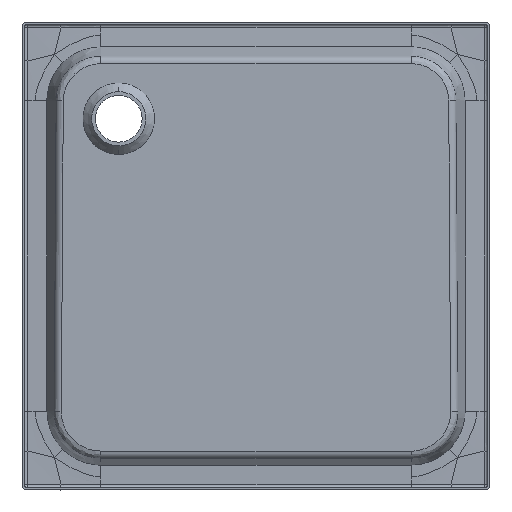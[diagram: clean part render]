
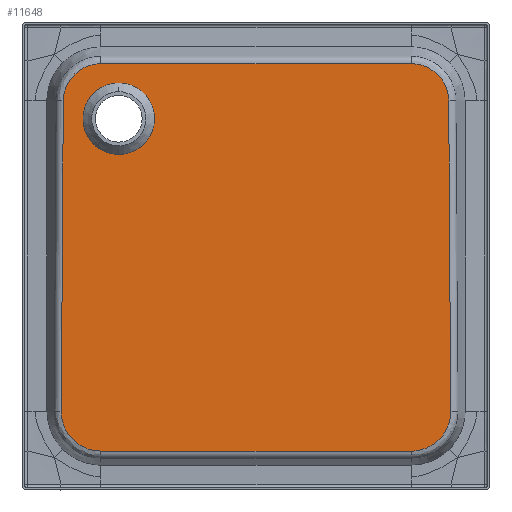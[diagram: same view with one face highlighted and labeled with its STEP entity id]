
A CAD part, front view. The second image highlights one B-rep face of the part: STEP entity #11648.
In plain terms, the highlighted planar face has unit normal (0, -1, -0.018).
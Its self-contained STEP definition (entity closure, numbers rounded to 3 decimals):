
#4017=CARTESIAN_POINT('',(151.5,-17.198,-825.156));
#4018=CARTESIAN_POINT('',(148.298,-17.198,
-825.156));
#4019=CARTESIAN_POINT('',(141.475,-17.204,
-824.761));
#4020=CARTESIAN_POINT('',(129.786,-17.246,
-822.352));
#4021=CARTESIAN_POINT('',(117.2,-17.332,
-817.466));
#4022=CARTESIAN_POINT('',(104.274,-17.473,
-809.402));
#4023=CARTESIAN_POINT('',(92.421,-17.674,
-797.845));
#4024=CARTESIAN_POINT('',(83.827,-17.904,
-784.698));
#4025=CARTESIAN_POINT('',(78.556,-18.132,
-771.634));
#4026=CARTESIAN_POINT('',(75.958,-18.346,
-759.339));
#4027=CARTESIAN_POINT('',(75.563,-18.472,
-752.145));
#4028=CARTESIAN_POINT('',(75.584,-18.531,
-748.755));
#4033=DIRECTION('',(0.006,-0.017,1.));
#4034=VECTOR('',#4033,597.103);
#4035=CARTESIAN_POINT('',(75.584,-18.531,
-748.755));
#4036=LINE('',#4035,#4034);
#4040=CARTESIAN_POINT('',(79.377,-28.952,
-151.755));
#4041=CARTESIAN_POINT('',(79.397,-29.006,
-148.662));
#4042=CARTESIAN_POINT('',(79.825,-29.12,
-142.094));
#4043=CARTESIAN_POINT('',(82.251,-29.316,
-130.863));
#4044=CARTESIAN_POINT('',(87.031,-29.524,
-118.954));
#4045=CARTESIAN_POINT('',(94.666,-29.733,
-106.991));
#4046=CARTESIAN_POINT('',(105.262,-29.922,
-96.184));
#4047=CARTESIAN_POINT('',(117.374,-30.062,
-88.168));
#4048=CARTESIAN_POINT('',(129.644,-30.15,
-83.092));
#4049=CARTESIAN_POINT('',(141.361,-30.195,
-80.514));
#4050=CARTESIAN_POINT('',(148.243,-30.203,
-80.087));
#4051=CARTESIAN_POINT('',(151.5,-30.203,-80.087));
#4056=DIRECTION('',(1.,0.,0.));
#4057=VECTOR('',#4056,597.);
#4058=CARTESIAN_POINT('',(151.5,-30.203,-80.087));
#4059=LINE('',#4058,#4057);
#4063=CARTESIAN_POINT('',(748.5,-30.203,-80.087));
#4064=CARTESIAN_POINT('',(751.718,-30.203,
-80.087));
#4065=CARTESIAN_POINT('',(758.529,-30.196,
-80.504));
#4066=CARTESIAN_POINT('',(770.155,-30.151,
-83.034));
#4067=CARTESIAN_POINT('',(782.358,-30.064,
-88.032));
#4068=CARTESIAN_POINT('',(794.451,-29.926,
-95.952));
#4069=CARTESIAN_POINT('',(805.109,-29.738,
-106.704));
#4070=CARTESIAN_POINT('',(812.84,-29.529,
-118.692));
#4071=CARTESIAN_POINT('',(817.694,-29.32,
-130.668));
#4072=CARTESIAN_POINT('',(820.165,-29.122,
-141.989));
#4073=CARTESIAN_POINT('',(820.603,-29.006,
-148.625));
#4074=CARTESIAN_POINT('',(820.623,-28.952,
-151.755));
#4079=DIRECTION('',(0.006,0.017,-1.));
#4080=VECTOR('',#4079,597.103);
#4081=CARTESIAN_POINT('',(820.623,-28.952,
-151.755));
#4082=LINE('',#4081,#4080);
#4086=CARTESIAN_POINT('',(824.416,-18.531,
-748.755));
#4087=CARTESIAN_POINT('',(824.437,-18.473,
-752.103));
#4088=CARTESIAN_POINT('',(824.052,-18.348,
-759.219));
#4089=CARTESIAN_POINT('',(821.506,-18.136,
-771.407));
#4090=CARTESIAN_POINT('',(816.329,-17.909,
-784.382));
#4091=CARTESIAN_POINT('',(807.859,-17.68,
-797.497));
#4092=CARTESIAN_POINT('',(796.074,-17.477,
-809.132));
#4093=CARTESIAN_POINT('',(783.105,-17.334,
-817.32));
#4094=CARTESIAN_POINT('',(770.43,-17.248,
-822.294));
#4095=CARTESIAN_POINT('',(758.638,-17.205,
-824.751));
#4096=CARTESIAN_POINT('',(751.74,-17.198,
-825.156));
#4097=CARTESIAN_POINT('',(748.5,-17.198,-825.156));
#4102=DIRECTION('',(-1.,0.,0.));
#4103=VECTOR('',#4102,597.);
#4104=CARTESIAN_POINT('',(748.5,-17.198,-825.156));
#4105=LINE('',#4104,#4103);
#4109=CARTESIAN_POINT('',(186.,-29.551,-117.4));
#4110=CARTESIAN_POINT('',(177.915,-29.551,-117.4));
#4111=CARTESIAN_POINT('',(160.451,-29.5,
-120.327));
#4112=CARTESIAN_POINT('',(136.041,-29.226,
-136.056));
#4113=CARTESIAN_POINT('',(122.956,-28.872,
-156.347));
#4114=CARTESIAN_POINT('',(118.121,-28.57,
-173.61));
#4115=CARTESIAN_POINT('',(117.039,-28.354,-186.));
#4116=CARTESIAN_POINT('',(118.121,-28.138,
-198.39));
#4117=CARTESIAN_POINT('',(122.956,-27.836,
-215.653));
#4118=CARTESIAN_POINT('',(136.041,-27.482,
-235.944));
#4119=CARTESIAN_POINT('',(160.451,-27.208,
-251.673));
#4120=CARTESIAN_POINT('',(177.915,-27.157,-254.6));
#4121=CARTESIAN_POINT('',(186.,-27.157,-254.6));
#4134=CARTESIAN_POINT('',(186.,-27.157,-254.6));
#4135=CARTESIAN_POINT('',(194.085,-27.157,-254.6));
#4136=CARTESIAN_POINT('',(211.549,-27.208,
-251.673));
#4137=CARTESIAN_POINT('',(235.959,-27.482,
-235.944));
#4138=CARTESIAN_POINT('',(249.044,-27.836,
-215.653));
#4139=CARTESIAN_POINT('',(253.879,-28.138,
-198.39));
#4140=CARTESIAN_POINT('',(254.961,-28.354,-186.));
#4141=CARTESIAN_POINT('',(253.879,-28.57,
-173.61));
#4142=CARTESIAN_POINT('',(249.044,-28.872,
-156.347));
#4143=CARTESIAN_POINT('',(235.959,-29.226,
-136.056));
#4144=CARTESIAN_POINT('',(211.549,-29.5,
-120.327));
#4145=CARTESIAN_POINT('',(194.085,-29.551,-117.4));
#4146=CARTESIAN_POINT('',(186.,-29.551,-117.4));
#5934=VERTEX_POINT('',#4109);
#5935=VERTEX_POINT('',#4121);
#6018=VERTEX_POINT('',#4017);
#6019=VERTEX_POINT('',#4028);
#6022=CARTESIAN_POINT('',(748.5,-17.198,-825.156));
#6023=VERTEX_POINT('',#6022);
#6026=VERTEX_POINT('',#4086);
#6028=CARTESIAN_POINT('',(820.623,-28.952,
-151.755));
#6029=VERTEX_POINT('',#6028);
#6032=VERTEX_POINT('',#4063);
#6034=CARTESIAN_POINT('',(151.5,-30.203,-80.087));
#6035=VERTEX_POINT('',#6034);
#6038=VERTEX_POINT('',#4040);
#11620=CARTESIAN_POINT('',(0.,-31.599,-0.08));
#11621=DIRECTION('',(0.,-1.,-0.017));
#11622=DIRECTION('',(0.,0.017,-1.));
#11623=AXIS2_PLACEMENT_3D('',#11620,#11621,#11622);
#11624=PLANE('',#11623);
#11626=ORIENTED_EDGE('',*,*,#11625,.T.);
#11628=ORIENTED_EDGE('',*,*,#11627,.T.);
#11630=ORIENTED_EDGE('',*,*,#11629,.T.);
#11632=ORIENTED_EDGE('',*,*,#11631,.T.);
#11634=ORIENTED_EDGE('',*,*,#11633,.T.);
#11636=ORIENTED_EDGE('',*,*,#11635,.T.);
#11637=ORIENTED_EDGE('',*,*,#11610,.T.);
#11639=ORIENTED_EDGE('',*,*,#11638,.T.);
#11640=EDGE_LOOP('',(#11626,#11628,#11630,#11632,#11634,#11636,#11637,#11639));
#11641=FACE_OUTER_BOUND('',#11640,.F.);
#11643=ORIENTED_EDGE('',*,*,#11642,.T.);
#11645=ORIENTED_EDGE('',*,*,#11644,.T.);
#11646=EDGE_LOOP('',(#11643,#11645));
#11647=FACE_BOUND('',#11646,.F.);
#4029=B_SPLINE_CURVE_WITH_KNOTS('',3,(#4017,#4018,#4019,#4020,#4021,#4022,#4023,
#4024,#4025,#4026,#4027,#4028),.UNSPECIFIED.,.F.,.F.,(4,1,1,1,1,1,1,1,1,4),
(0.,0.111,0.222,0.333,0.444,
0.556,0.667,0.778,0.889,1.),
.UNSPECIFIED.);
#4052=B_SPLINE_CURVE_WITH_KNOTS('',3,(#4040,#4041,#4042,#4043,#4044,#4045,#4046,
#4047,#4048,#4049,#4050,#4051),.UNSPECIFIED.,.F.,.F.,(4,1,1,1,1,1,1,1,1,4),
(0.,0.111,0.222,0.333,0.444,
0.556,0.667,0.778,0.889,1.),
.UNSPECIFIED.);
#4075=B_SPLINE_CURVE_WITH_KNOTS('',3,(#4063,#4064,#4065,#4066,#4067,#4068,#4069,
#4070,#4071,#4072,#4073,#4074),.UNSPECIFIED.,.F.,.F.,(4,1,1,1,1,1,1,1,1,4),
(0.,0.111,0.222,0.333,0.444,
0.556,0.667,0.778,0.889,1.),
.UNSPECIFIED.);
#4098=B_SPLINE_CURVE_WITH_KNOTS('',3,(#4086,#4087,#4088,#4089,#4090,#4091,#4092,
#4093,#4094,#4095,#4096,#4097),.UNSPECIFIED.,.F.,.F.,(4,1,1,1,1,1,1,1,1,4),
(0.,0.111,0.222,0.333,0.444,
0.556,0.667,0.778,0.889,1.),
.UNSPECIFIED.);
#4122=B_SPLINE_CURVE_WITH_KNOTS('',3,(#4109,#4110,#4111,#4112,#4113,#4114,#4115,
#4116,#4117,#4118,#4119,#4120,#4121),.UNSPECIFIED.,.F.,.F.,(4,1,1,1,1,1,1,1,1,1,
4),(0.,0.125,0.25,0.375,0.438,0.5,0.563,0.625,0.75,0.875,
1.),.UNSPECIFIED.);
#4147=B_SPLINE_CURVE_WITH_KNOTS('',3,(#4134,#4135,#4136,#4137,#4138,#4139,#4140,
#4141,#4142,#4143,#4144,#4145,#4146),.UNSPECIFIED.,.F.,.F.,(4,1,1,1,1,1,1,1,1,1,
4),(0.,0.125,0.25,0.375,0.438,0.5,0.563,0.625,0.75,0.875,
1.),.UNSPECIFIED.);
#11610=EDGE_CURVE('',#6026,#6023,#4098,.T.);
#11625=EDGE_CURVE('',#6018,#6019,#4029,.T.);
#11627=EDGE_CURVE('',#6019,#6038,#4036,.T.);
#11629=EDGE_CURVE('',#6038,#6035,#4052,.T.);
#11631=EDGE_CURVE('',#6035,#6032,#4059,.T.);
#11633=EDGE_CURVE('',#6032,#6029,#4075,.T.);
#11635=EDGE_CURVE('',#6029,#6026,#4082,.T.);
#11638=EDGE_CURVE('',#6023,#6018,#4105,.T.);
#11642=EDGE_CURVE('',#5934,#5935,#4122,.T.);
#11644=EDGE_CURVE('',#5935,#5934,#4147,.T.);
#11648=ADVANCED_FACE('',(#11641,#11647),#11624,.T.);
